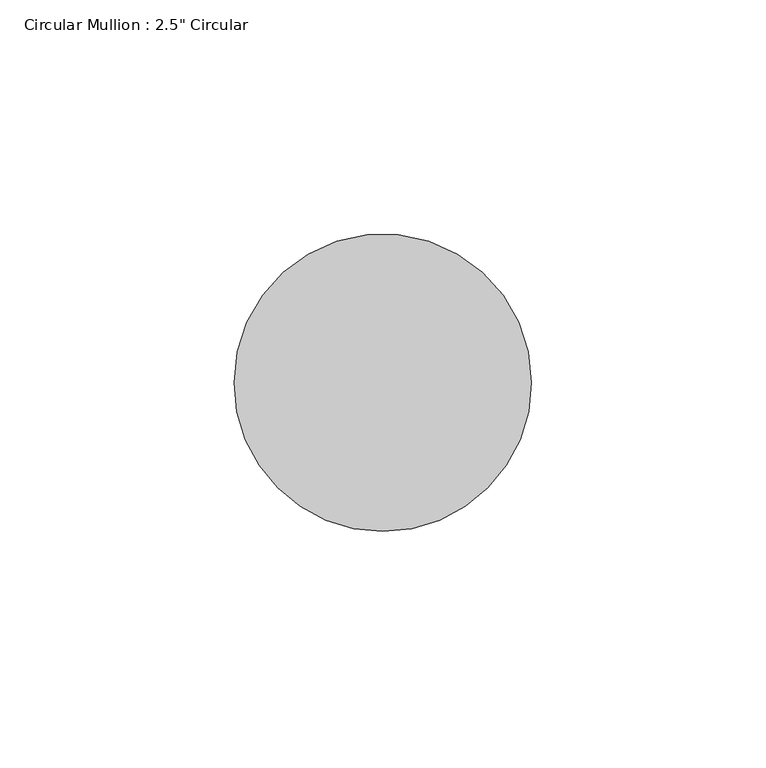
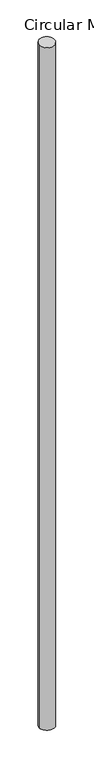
"""IFC4 building model written with IfcOpenShell, lengths in millimetres: member geometry."""

from ifc_helpers import new_model, si_unit, frame, origin, place, context, project, spatial, ellipse_curve, source, transform, mapped, element, save
from ifc_brep_helpers import plane_surface, cylinder_surface, advanced_brep


def member_d2f57cd3(model_context):
    return source(origin(), model_context, "Body", "AdvancedBrep", [
        advanced_brep(
        [(-63.5, 0.0, -1.0746477), (0.0, 0.0, 0.0), (0.0, 0.0, -2976.1268686), (-63.5, 0.0, -2975.2783756)],
        [
            (0, 1, ellipse_curve(frame((-31.75, 0.0, -0.5373239), z_axis=(0.016896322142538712, 0.054166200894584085, -0.9983889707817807), x_axis=(0.29730364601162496, 0.9530955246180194, 0.056740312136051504)), 31.8012327, 31.75)),
            (1, 2),
            (2, 3, ellipse_curve(frame((-31.75, 0.0, -2975.7026221), z_axis=(0.013348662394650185, 0.04279311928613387, 0.9989947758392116), x_axis=(-0.29748404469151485, -0.9536738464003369, 0.04482675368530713)), 31.781948, 31.75)),
            (3, 0),
            (1, 0, ellipse_curve(frame((-31.75, 0.0, -0.5373239), z_axis=(0.016896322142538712, 0.054166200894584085, -0.9983889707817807), x_axis=(0.29730364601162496, 0.9530955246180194, 0.056740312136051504)), 31.8012327, 31.75)),
            (3, 2, ellipse_curve(frame((-31.75, 0.0, -2975.7026221), z_axis=(0.013348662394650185, 0.04279311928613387, 0.9989947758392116), x_axis=(-0.29748404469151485, -0.9536738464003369, 0.04482675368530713)), 31.781948, 31.75)),
        ],
        [
            cylinder_surface(frame((-31.75, 0.0, 0.0), z_axis=(0.0, 0.0, 1.0), x_axis=(1.0, 0.0, 0.0)), 31.75),
            plane_surface(frame((290.9722807, -90.7643754, 0.0), z_axis=(-0.016896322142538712, -0.054166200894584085, 0.9983889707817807), x_axis=(-0.29730364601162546, -0.9530955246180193, -0.056740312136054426))),
            plane_surface(frame((290.9722807, -90.7643754, -2976.1268686), z_axis=(-0.013348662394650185, -0.04279311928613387, -0.9989947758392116), x_axis=(-0.29748404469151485, -0.9536738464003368, 0.04482675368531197))),
        ],
        [
            (0, [[1, 2, 3, 4]]),
            (0, [[5, -4, 6, -2]]),
            (1, [[-1, -5]]),
            (2, [[-6, -3]]),
        ],
    ),
    ])


if __name__ == "__main__":
    model = new_model("IFC4")
    model_context = context("Model", 3, world=origin())
    ifc_project = project(units=[si_unit("LENGTHUNIT", "METRE", prefix="MILLI")], contexts=[model_context])
    site = spatial("IfcSite", under=ifc_project)
    building = spatial("IfcBuilding", under=site)
    placement = place(None, origin())
    member_shape = member_d2f57cd3(model_context)
    element("IfcMember", 1, ObjectType="Circular Mullion : 2.5\" Circular", at=placement, inside=building, context=model_context, shape_type="MappedRepresentation", body=[
        mapped(member_shape, transform((0.0, 0.0, 0.0), x_axis=(1.0, 0.0, 0.0), y_axis=(0.0, 1.0, 0.0), z_axis=(0.0, 0.0, 1.0))),
    ])
    save(model, "model.ifc")
